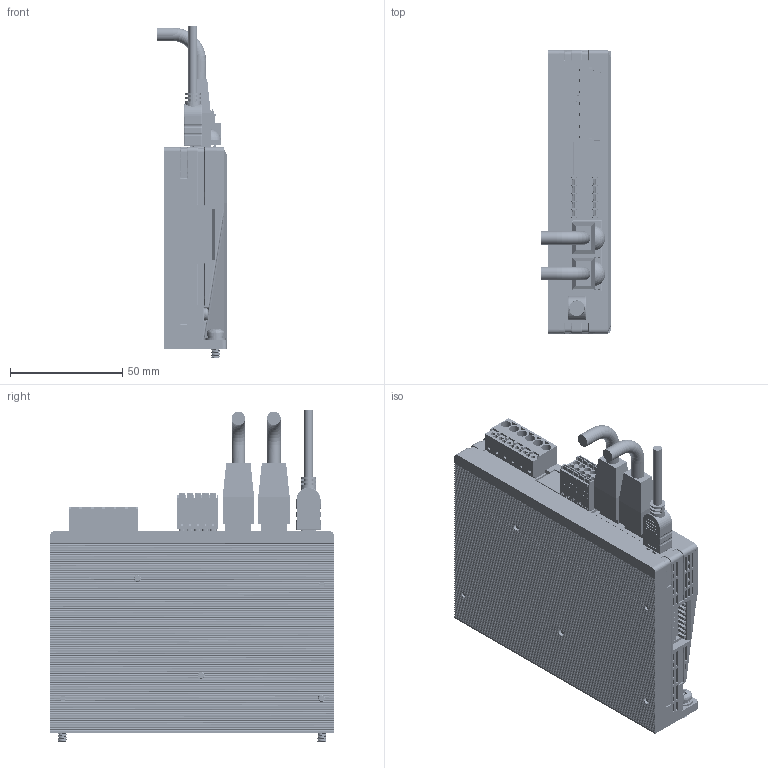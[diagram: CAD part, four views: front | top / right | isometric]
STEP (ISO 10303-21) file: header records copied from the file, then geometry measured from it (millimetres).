
FILE_DESCRIPTION(('CATIA V5 STEP Exchange','CAx-IF Rec.Pracs.--- Composite Materials ---3.4---2017-06-13'),'2;1');
FILE_NAME('E:\【1】\新建文件夹 (34)\DP3CL1-705-官网图+EPLAN图-241127.stp','2024-12-02T03:43:34+00:00',('none'),('none'),'CATIA Version 5-6 Release 2020','CATIA V5 STEP AP203 v1','none');
FILE_SCHEMA(('CONFIG_CONTROL_DESIGN'));
Products named in the file (1): _model3
Bounding box: 31.32 x 126.6 x 148.15 mm (x, y, z)
Volume: 322097.4 mm3; surface area: 106604.9 mm2
Topology: 660 solids, 662 shells, 15284 faces, 46282 edges, 32483 vertices
Faces by surface type: plane 11073, cylinder 2114, bspline 1800, torus 137, cone 87, sphere 73
Entity records: 573959 total; most frequent: CARTESIAN_POINT 201752, ORIENTED_EDGE 92440, DIRECTION 51999, EDGE_CURVE 46220, VERTEX_POINT 32483, VECTOR 30169, LINE 30169, EDGE_LOOP 16267
